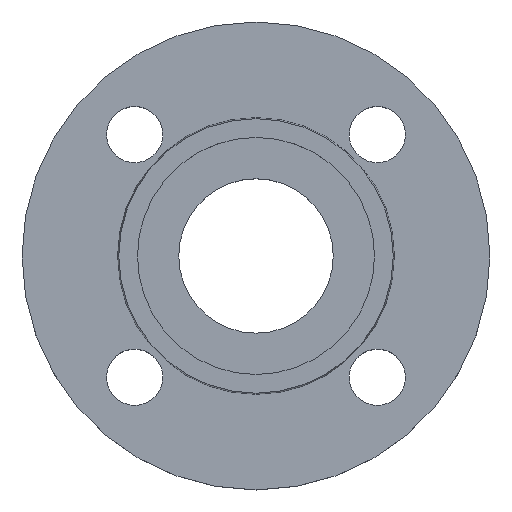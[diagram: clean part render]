
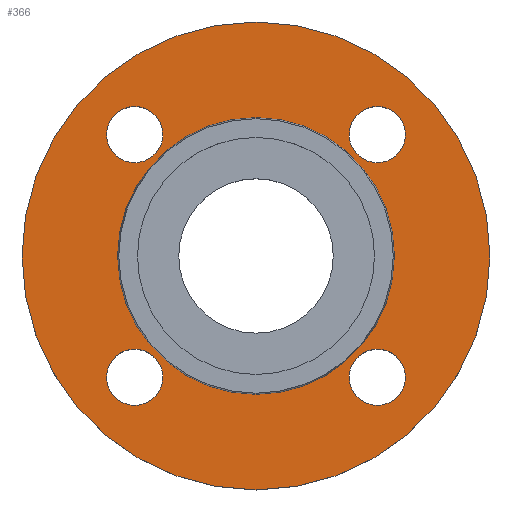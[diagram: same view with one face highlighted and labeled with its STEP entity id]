
A CAD part, top view. The second image highlights one B-rep face of the part: STEP entity #366.
In plain terms, the highlighted planar face has unit normal (0, 0, 1).
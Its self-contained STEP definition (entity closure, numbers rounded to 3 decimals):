
#14 = CIRCLE ( 'NONE', #15, 9. ) ;
#15 = AXIS2_PLACEMENT_3D ( 'NONE', #628, #629, #630 ) ;
#17 = CIRCLE ( 'NONE', #22, 9. ) ;
#22 = AXIS2_PLACEMENT_3D ( 'NONE', #637, #638, #640 ) ;
#26 = CIRCLE ( 'NONE', #27, 9. ) ;
#27 = AXIS2_PLACEMENT_3D ( 'NONE', #641, #644, #645 ) ;
#30 = AXIS2_PLACEMENT_3D ( 'NONE', #658, #659, #660 ) ;
#33 = CIRCLE ( 'NONE', #34, 44.353 ) ;
#34 = AXIS2_PLACEMENT_3D ( 'NONE', #664, #665, #666 ) ;
#42 = AXIS2_PLACEMENT_3D ( 'NONE', #576, #577, #578 ) ;
#45 = CIRCLE ( 'NONE', #42, 9. ) ;
#54 = AXIS2_PLACEMENT_3D ( 'NONE', #540, #542, #543 ) ;
#55 = CIRCLE ( 'NONE', #54, 44.353 ) ;
#58 = AXIS2_PLACEMENT_3D ( 'NONE', #533, #534, #535 ) ;
#59 = CIRCLE ( 'NONE', #58, 75. ) ;
#60 = AXIS2_PLACEMENT_3D ( 'NONE', #530, #531, #532 ) ;
#61 = CIRCLE ( 'NONE', #60, 75. ) ;
#64 = AXIS2_PLACEMENT_3D ( 'NONE', #524, #525, #526 ) ;
#66 = CIRCLE ( 'NONE', #64, 9. ) ;
#67 = AXIS2_PLACEMENT_3D ( 'NONE', #521, #522, #523 ) ;
#68 = CIRCLE ( 'NONE', #67, 9. ) ;
#74 = AXIS2_PLACEMENT_3D ( 'NONE', #512, #513, #514 ) ;
#75 = CIRCLE ( 'NONE', #74, 9. ) ;
#76 = AXIS2_PLACEMENT_3D ( 'NONE', #509, #510, #511 ) ;
#78 = CIRCLE ( 'NONE', #76, 9. ) ;
#189 = CARTESIAN_POINT ( 'NONE',  ( -47.891, 38.891, -2. ) ) ;
#190 = EDGE_CURVE ( 'NONE', #410, #256, #78, .T. ) ;
#191 = CARTESIAN_POINT ( 'NONE',  ( 47.891, 38.891, -2. ) ) ;
#196 = CARTESIAN_POINT ( 'NONE',  ( -29.891, -38.891, -2. ) ) ;
#197 = EDGE_CURVE ( 'NONE', #255, #418, #75, .T. ) ;
#203 = EDGE_CURVE ( 'NONE', #406, #394, #68, .T. ) ;
#204 = EDGE_CURVE ( 'NONE', #426, #399, #66, .T. ) ;
#206 = EDGE_CURVE ( 'NONE', #392, #248, #61, .T. ) ;
#212 = CARTESIAN_POINT ( 'NONE',  ( 29.891, 38.891, -2. ) ) ;
#219 = CARTESIAN_POINT ( 'NONE',  ( 47.891, -38.891, -2. ) ) ;
#233 = EDGE_CURVE ( 'NONE', #248, #392, #59, .T. ) ;
#237 = EDGE_CURVE ( 'NONE', #375, #277, #55, .T. ) ;
#246 = EDGE_CURVE ( 'NONE', #394, #406, #45, .T. ) ;
#248 = VERTEX_POINT ( 'NONE', #579 ) ;
#249 = EDGE_LOOP ( 'NONE', ( #328, #329 ) ) ;
#255 = VERTEX_POINT ( 'NONE', #581 ) ;
#256 = VERTEX_POINT ( 'NONE', #582 ) ;
#261 = EDGE_LOOP ( 'NONE', ( #321, #322 ) ) ;
#274 = EDGE_LOOP ( 'NONE', ( #327, #330 ) ) ;
#277 = VERTEX_POINT ( 'NONE', #588 ) ;
#318 = ORIENTED_EDGE ( 'NONE', *, *, #345, .T. ) ;
#320 = ORIENTED_EDGE ( 'NONE', *, *, #197, .T. ) ;
#321 = ORIENTED_EDGE ( 'NONE', *, *, #190, .T. ) ;
#322 = ORIENTED_EDGE ( 'NONE', *, *, #331, .T. ) ;
#323 = ORIENTED_EDGE ( 'NONE', *, *, #246, .T. ) ;
#324 = ORIENTED_EDGE ( 'NONE', *, *, #203, .T. ) ;
#325 = ORIENTED_EDGE ( 'NONE', *, *, #344, .T. ) ;
#326 = ORIENTED_EDGE ( 'NONE', *, *, #204, .T. ) ;
#327 = ORIENTED_EDGE ( 'NONE', *, *, #237, .T. ) ;
#328 = ORIENTED_EDGE ( 'NONE', *, *, #233, .F. ) ;
#329 = ORIENTED_EDGE ( 'NONE', *, *, #206, .F. ) ;
#330 = ORIENTED_EDGE ( 'NONE', *, *, #377, .T. ) ;
#331 = EDGE_CURVE ( 'NONE', #256, #410, #14, .T. ) ;
#337 = EDGE_LOOP ( 'NONE', ( #323, #324 ) ) ;
#344 = EDGE_CURVE ( 'NONE', #399, #426, #17, .T. ) ;
#345 = EDGE_CURVE ( 'NONE', #418, #255, #26, .T. ) ;
#366 = ADVANCED_FACE ( 'NONE', ( #649, #650, #651, #652, #655, #656 ), #657, .T. ) ;
#375 = VERTEX_POINT ( 'NONE', #663 ) ;
#377 = EDGE_CURVE ( 'NONE', #277, #375, #33, .T. ) ;
#392 = VERTEX_POINT ( 'NONE', #668 ) ;
#394 = VERTEX_POINT ( 'NONE', #669 ) ;
#395 = EDGE_LOOP ( 'NONE', ( #325, #326 ) ) ;
#399 = VERTEX_POINT ( 'NONE', #191 ) ;
#406 = VERTEX_POINT ( 'NONE', #189 ) ;
#410 = VERTEX_POINT ( 'NONE', #196 ) ;
#418 = VERTEX_POINT ( 'NONE', #219 ) ;
#421 = EDGE_LOOP ( 'NONE', ( #318, #320 ) ) ;
#426 = VERTEX_POINT ( 'NONE', #212 ) ;
#509 = CARTESIAN_POINT ( 'NONE',  ( -38.891, -38.891, -2. ) ) ;
#510 = DIRECTION ( 'NONE',  ( 0., 0., -1. ) ) ;
#511 = DIRECTION ( 'NONE',  ( 1., 0., 0. ) ) ;
#512 = CARTESIAN_POINT ( 'NONE',  ( 38.891, -38.891, -2. ) ) ;
#513 = DIRECTION ( 'NONE',  ( 0., 0., -1. ) ) ;
#514 = DIRECTION ( 'NONE',  ( 1., 0., 0. ) ) ;
#521 = CARTESIAN_POINT ( 'NONE',  ( -38.891, 38.891, -2. ) ) ;
#522 = DIRECTION ( 'NONE',  ( 0., 0., -1. ) ) ;
#523 = DIRECTION ( 'NONE',  ( 1., 0., 0. ) ) ;
#524 = CARTESIAN_POINT ( 'NONE',  ( 38.891, 38.891, -2. ) ) ;
#525 = DIRECTION ( 'NONE',  ( 0., 0., -1. ) ) ;
#526 = DIRECTION ( 'NONE',  ( 1., 0., 0. ) ) ;
#530 = CARTESIAN_POINT ( 'NONE',  ( 0., 0., -2. ) ) ;
#531 = DIRECTION ( 'NONE',  ( 0., 0., -1. ) ) ;
#532 = DIRECTION ( 'NONE',  ( -1., 0., 0. ) ) ;
#533 = CARTESIAN_POINT ( 'NONE',  ( 0., 0., -2. ) ) ;
#534 = DIRECTION ( 'NONE',  ( 0., 0., -1. ) ) ;
#535 = DIRECTION ( 'NONE',  ( -1., 0., 0. ) ) ;
#540 = CARTESIAN_POINT ( 'NONE',  ( 0., 0., -2. ) ) ;
#542 = DIRECTION ( 'NONE',  ( 0., 0., -1. ) ) ;
#543 = DIRECTION ( 'NONE',  ( -1., 0., 0. ) ) ;
#576 = CARTESIAN_POINT ( 'NONE',  ( -38.891, 38.891, -2. ) ) ;
#577 = DIRECTION ( 'NONE',  ( 0., 0., -1. ) ) ;
#578 = DIRECTION ( 'NONE',  ( 1., 0., 0. ) ) ;
#579 = CARTESIAN_POINT ( 'NONE',  ( 75., 0., -2. ) ) ;
#581 = CARTESIAN_POINT ( 'NONE',  ( 29.891, -38.891, -2. ) ) ;
#582 = CARTESIAN_POINT ( 'NONE',  ( -47.891, -38.891, -2. ) ) ;
#588 = CARTESIAN_POINT ( 'NONE',  ( 44.353, 0., -2. ) ) ;
#628 = CARTESIAN_POINT ( 'NONE',  ( -38.891, -38.891, -2. ) ) ;
#629 = DIRECTION ( 'NONE',  ( 0., 0., -1. ) ) ;
#630 = DIRECTION ( 'NONE',  ( 1., 0., 0. ) ) ;
#637 = CARTESIAN_POINT ( 'NONE',  ( 38.891, 38.891, -2. ) ) ;
#638 = DIRECTION ( 'NONE',  ( 0., 0., -1. ) ) ;
#640 = DIRECTION ( 'NONE',  ( 1., 0., 0. ) ) ;
#641 = CARTESIAN_POINT ( 'NONE',  ( 38.891, -38.891, -2. ) ) ;
#644 = DIRECTION ( 'NONE',  ( 0., 0., -1. ) ) ;
#645 = DIRECTION ( 'NONE',  ( 1., 0., 0. ) ) ;
#649 = FACE_BOUND ( 'NONE', #421, .T. ) ;
#650 = FACE_BOUND ( 'NONE', #261, .T. ) ;
#651 = FACE_BOUND ( 'NONE', #337, .T. ) ;
#652 = FACE_BOUND ( 'NONE', #395, .T. ) ;
#655 = FACE_BOUND ( 'NONE', #274, .T. ) ;
#656 = FACE_OUTER_BOUND ( 'NONE', #249, .T. ) ;
#657 = PLANE ( 'NONE',  #30 ) ;
#658 = CARTESIAN_POINT ( 'NONE',  ( 44.353, 0., -2. ) ) ;
#659 = DIRECTION ( 'NONE',  ( 0., 0., 1. ) ) ;
#660 = DIRECTION ( 'NONE',  ( 1., 0., 0. ) ) ;
#663 = CARTESIAN_POINT ( 'NONE',  ( -44.353, 0., -2. ) ) ;
#664 = CARTESIAN_POINT ( 'NONE',  ( 0., 0., -2. ) ) ;
#665 = DIRECTION ( 'NONE',  ( 0., 0., -1. ) ) ;
#666 = DIRECTION ( 'NONE',  ( -1., 0., 0. ) ) ;
#668 = CARTESIAN_POINT ( 'NONE',  ( -75., 0., -2. ) ) ;
#669 = CARTESIAN_POINT ( 'NONE',  ( -29.891, 38.891, -2. ) ) ;
